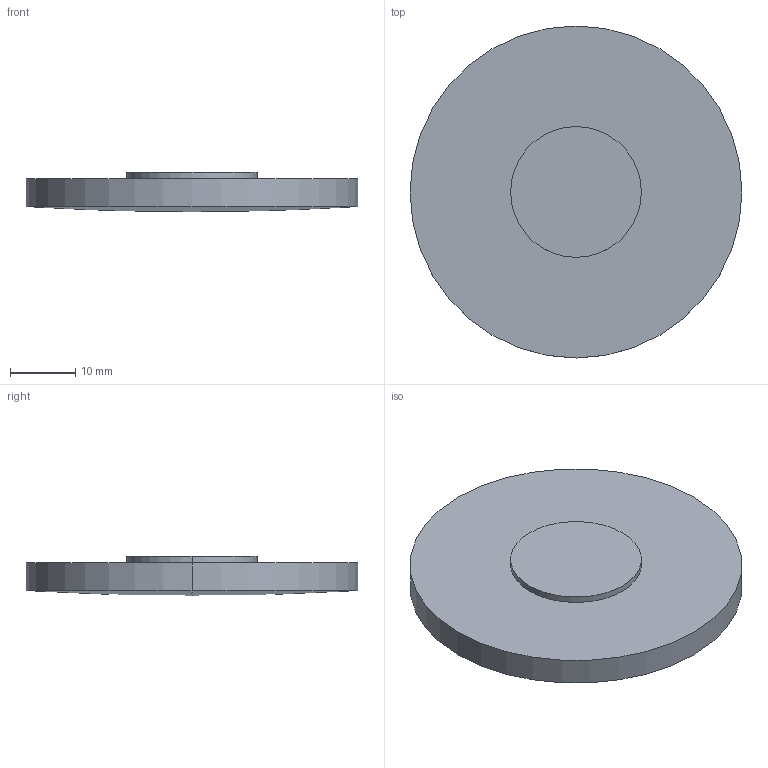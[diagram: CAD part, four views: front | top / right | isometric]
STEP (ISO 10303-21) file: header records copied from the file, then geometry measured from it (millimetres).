
FILE_DESCRIPTION(('STEP AP214'),'1');
FILE_NAME('LLZ-51300.STEP','2020-03-09T17:42:38',(' '),(' '),'Spatial InterOp 3D',' ',' ');
FILE_SCHEMA(('AUTOMOTIVE_DESIGN { 1 0 10303 214 1 1 1 1 }'));
Length unit declared in the file: millimetre
Products named in the file (1): 1
Bounding box: 50.8 x 50.8 x 6 mm (x, y, z)
Volume: 9677 mm3; surface area: 5423.1 mm2
Topology: 2 solids, 2 shells, 9 faces, 16 edges, 9 vertices
Faces by surface type: cylinder 4, plane 3, sphere 2
Entity records: 229 total; most frequent: DIRECTION 46, CARTESIAN_POINT 34, ORIENTED_EDGE 28, AXIS2_PLACEMENT_3D 21, EDGE_CURVE 14, CIRCLE 10, ADVANCED_FACE 9, FACE_OUTER_BOUND 9
